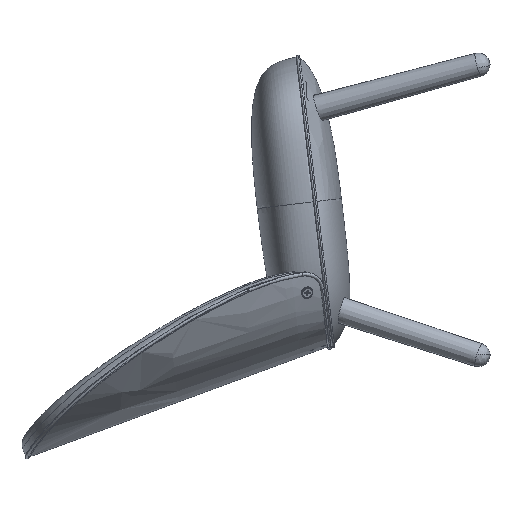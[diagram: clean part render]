
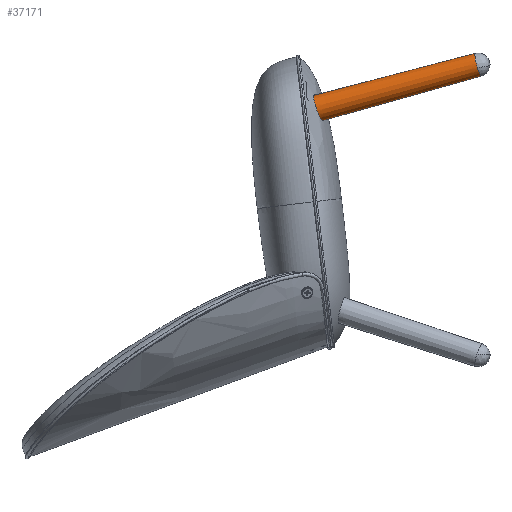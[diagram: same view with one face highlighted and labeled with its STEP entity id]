
A CAD part, left-side view. The second image highlights one B-rep face of the part: STEP entity #37171.
In plain terms, the highlighted conical face has half-angle 0.5 degrees and reference radius 22.737 mm.
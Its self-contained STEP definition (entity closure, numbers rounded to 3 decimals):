
#451 = LINE ( 'NONE', #4389, #43298 ) ;
#461 = B_SPLINE_CURVE_WITH_KNOTS ( 'NONE', 3,
 ( #100127, #150005, #13083, #112205, #25129, #61355, #149466, #1079, #61892, #151087, #49809, #125903, #112745, #137385, #50886, #76045, #37733, #88631, #73909, #161517, #62424, #99058, #24050, #125359, #162048, #50344, #136859, #138476 ),
 .UNSPECIFIED., .F., .F.,
 ( 4, 2, 2, 2, 2, 2, 1, 1, 1, 1, 2, 2, 2, 2, 2, 4 ),
 ( 0., 0.125, 0.25, 0.375, 0.438, 0.469, 0.484, 0.492, 0.496, 0.498, 0.499, 0.5, 0.625, 0.75, 0.875, 1. ),
 .UNSPECIFIED. ) ;
#1079 = CARTESIAN_POINT ( 'NONE',  ( -226.045, 25.003, 268.739 ) ) ;
#2854 = CARTESIAN_POINT ( 'NONE',  ( -221.652, 17.665, 243.967 ) ) ;
#4389 = CARTESIAN_POINT ( 'NONE',  ( -164.941, 293.316, 161.695 ) ) ;
#4748 = EDGE_CURVE ( 'NONE', #144870, #117655, #58156, .T. ) ;
#7280 = DIRECTION ( 'NONE',  ( -0.15, -0.954, 0.259 ) ) ;
#8326 = ORIENTED_EDGE ( 'NONE', *, *, #19582, .T. ) ;
#8513 = CIRCLE ( 'NONE', #135834, 22.737 ) ;
#13083 = CARTESIAN_POINT ( 'NONE',  ( -228.898, 22.677, 258.425 ) ) ;
#13759 = CARTESIAN_POINT ( 'NONE',  ( -216.339, 16.051, 241.037 ) ) ;
#14307 = CARTESIAN_POINT ( 'NONE',  ( -219.605, 16.973, 242.575 ) ) ;
#14860 = CARTESIAN_POINT ( 'NONE',  ( -221.668, 17.671, 243.979 ) ) ;
#17635 = FACE_OUTER_BOUND ( 'NONE', #109658, .T. ) ;
#19582 = EDGE_CURVE ( 'NONE', #55201, #82828, #90393, .T. ) ;
#24050 = CARTESIAN_POINT ( 'NONE',  ( -218.689, 25.833, 276.093 ) ) ;
#25129 = CARTESIAN_POINT ( 'NONE',  ( -228.409, 23.815, 262.946 ) ) ;
#26589 = ORIENTED_EDGE ( 'NONE', *, *, #142357, .T. ) ;
#26924 = CARTESIAN_POINT ( 'NONE',  ( -219.068, 16.808, 242.274 ) ) ;
#34679 = AXIS2_PLACEMENT_3D ( 'NONE', #152173, #65131, #102300 ) ;
#37171 = ADVANCED_FACE ( 'NONE', ( #17635 ), #109643, .T. ) ;
#37733 = CARTESIAN_POINT ( 'NONE',  ( -224.216, 25.41, 271.317 ) ) ;
#38412 = CARTESIAN_POINT ( 'NONE',  ( -210.916, 14.913, 239.945 ) ) ;
#42841 = CARTESIAN_POINT ( 'NONE',  ( -164.941, 305.221, 205.583 ) ) ;
#43298 = VECTOR ( 'NONE', #106671, 1000. ) ;
#49809 = CARTESIAN_POINT ( 'NONE',  ( -224.965, 25.269, 270.358 ) ) ;
#50344 = CARTESIAN_POINT ( 'NONE',  ( -211.821, 25.452, 278.658 ) ) ;
#50886 = CARTESIAN_POINT ( 'NONE',  ( -224.278, 25.4, 271.242 ) ) ;
#51034 = CARTESIAN_POINT ( 'NONE',  ( -214.142, 15.538, 240.402 ) ) ;
#51575 = CARTESIAN_POINT ( 'NONE',  ( -227.307, 20.409, 250.901 ) ) ;
#53421 = VERTEX_POINT ( 'NONE', #129049 ) ;
#55201 = VERTEX_POINT ( 'NONE', #115543 ) ;
#58156 = B_SPLINE_CURVE_WITH_KNOTS ( 'NONE', 3,
 ( #126047, #127154, #38412, #88775, #51034, #13759, #153407, #26924, #14307, #126614, #152327, #115606, #102451, #138621, #151776, #151229, #2854, #14860, #113425, #78375, #77286, #51575, #89879, #100816 ),
 .UNSPECIFIED., .F., .F.,
 ( 4, 2, 2, 2, 2, 2, 1, 1, 1, 1, 2, 2, 2, 4 ),
 ( 0., 0.125, 0.25, 0.375, 0.437, 0.469, 0.484, 0.492, 0.496, 0.498, 0.499, 0.5, 0.75, 1. ),
 .UNSPECIFIED. ) ;
#61355 = CARTESIAN_POINT ( 'NONE',  ( -227.57, 24.423, 265.695 ) ) ;
#61892 = CARTESIAN_POINT ( 'NONE',  ( -225.698, 25.099, 269.3 ) ) ;
#62424 = CARTESIAN_POINT ( 'NONE',  ( -222.223, 25.683, 273.485 ) ) ;
#65131 = DIRECTION ( 'NONE',  ( 0.15, 0.954, -0.259 ) ) ;
#73909 = CARTESIAN_POINT ( 'NONE',  ( -224.199, 25.413, 271.338 ) ) ;
#76045 = CARTESIAN_POINT ( 'NONE',  ( -224.235, 25.407, 271.295 ) ) ;
#77286 = CARTESIAN_POINT ( 'NONE',  ( -224.979, 19.018, 247.074 ) ) ;
#78375 = CARTESIAN_POINT ( 'NONE',  ( -223.462, 18.325, 245.375 ) ) ;
#82828 = VERTEX_POINT ( 'NONE', #42841 ) ;
#83873 = ORIENTED_EDGE ( 'NONE', *, *, #104699, .F. ) ;
#87218 = ORIENTED_EDGE ( 'NONE', *, *, #149111, .T. ) ;
#88631 = CARTESIAN_POINT ( 'NONE',  ( -224.204, 25.413, 271.332 ) ) ;
#88775 = CARTESIAN_POINT ( 'NONE',  ( -213.049, 15.311, 240.19 ) ) ;
#89879 = CARTESIAN_POINT ( 'NONE',  ( -228.117, 21.106, 253.029 ) ) ;
#90393 = LINE ( 'NONE', #148477, #139414 ) ;
#99058 = CARTESIAN_POINT ( 'NONE',  ( -219.934, 25.814, 275.301 ) ) ;
#100127 = CARTESIAN_POINT ( 'NONE',  ( -228.526, 21.764, 255.242 ) ) ;
#100816 = CARTESIAN_POINT ( 'NONE',  ( -228.526, 21.764, 255.242 ) ) ;
#102300 = DIRECTION ( 'NONE',  ( 0., 0.262, 0.965 ) ) ;
#102451 = CARTESIAN_POINT ( 'NONE',  ( -221.239, 17.517, 243.654 ) ) ;
#104699 = EDGE_CURVE ( 'NONE', #144870, #53421, #451, .T. ) ;
#105822 = CARTESIAN_POINT ( 'NONE',  ( -164.941, 299.269, 183.639 ) ) ;
#106671 = DIRECTION ( 'NONE',  ( 0.15, 0.952, -0.267 ) ) ;
#109643 = CONICAL_SURFACE ( 'NONE', #34679, 22.737, 0.009 ) ;
#109658 = EDGE_LOOP ( 'NONE', ( #83873, #149128, #87218, #8326, #26589 ) ) ;
#112205 = CARTESIAN_POINT ( 'NONE',  ( -228.691, 23.465, 261.479 ) ) ;
#112745 = CARTESIAN_POINT ( 'NONE',  ( -224.535, 25.354, 270.923 ) ) ;
#113425 = CARTESIAN_POINT ( 'NONE',  ( -221.676, 17.674, 243.986 ) ) ;
#115543 = CARTESIAN_POINT ( 'NONE',  ( -208.889, 25.069, 278.933 ) ) ;
#115606 = CARTESIAN_POINT ( 'NONE',  ( -221.046, 17.45, 243.516 ) ) ;
#117655 = VERTEX_POINT ( 'NONE', #126204 ) ;
#120036 = DIRECTION ( 'NONE',  ( 0., 0.262, 0.965 ) ) ;
#125359 = CARTESIAN_POINT ( 'NONE',  ( -216.058, 25.775, 277.404 ) ) ;
#125903 = CARTESIAN_POINT ( 'NONE',  ( -224.679, 25.327, 270.737 ) ) ;
#126047 = CARTESIAN_POINT ( 'NONE',  ( -208.874, 14.597, 239.952 ) ) ;
#126204 = CARTESIAN_POINT ( 'NONE',  ( -228.526, 21.764, 255.242 ) ) ;
#126614 = CARTESIAN_POINT ( 'NONE',  ( -220.396, 17.229, 243.071 ) ) ;
#127154 = CARTESIAN_POINT ( 'NONE',  ( -209.875, 14.743, 239.913 ) ) ;
#129049 = CARTESIAN_POINT ( 'NONE',  ( -164.941, 293.316, 161.695 ) ) ;
#135834 = AXIS2_PLACEMENT_3D ( 'NONE', #105822, #7280, #120036 ) ;
#136859 = CARTESIAN_POINT ( 'NONE',  ( -210.357, 25.283, 278.875 ) ) ;
#137385 = CARTESIAN_POINT ( 'NONE',  ( -224.364, 25.385, 271.137 ) ) ;
#138476 = CARTESIAN_POINT ( 'NONE',  ( -208.889, 25.069, 278.933 ) ) ;
#138621 = CARTESIAN_POINT ( 'NONE',  ( -221.462, 17.596, 243.821 ) ) ;
#139414 = VECTOR ( 'NONE', #146125, 1000. ) ;
#142357 = EDGE_CURVE ( 'NONE', #82828, #53421, #8513, .T. ) ;
#144870 = VERTEX_POINT ( 'NONE', #145353 ) ;
#145353 = CARTESIAN_POINT ( 'NONE',  ( -208.874, 14.597, 239.952 ) ) ;
#146125 = DIRECTION ( 'NONE',  ( 0.15, 0.956, -0.25 ) ) ;
#148477 = CARTESIAN_POINT ( 'NONE',  ( -164.941, 305.221, 205.583 ) ) ;
#149111 = EDGE_CURVE ( 'NONE', #117655, #55201, #461, .T. ) ;
#149128 = ORIENTED_EDGE ( 'NONE', *, *, #4748, .T. ) ;
#149466 = CARTESIAN_POINT ( 'NONE',  ( -227.015, 24.681, 266.978 ) ) ;
#150005 = CARTESIAN_POINT ( 'NONE',  ( -228.821, 22.238, 256.839 ) ) ;
#151087 = CARTESIAN_POINT ( 'NONE',  ( -225.152, 25.229, 270.098 ) ) ;
#151229 = CARTESIAN_POINT ( 'NONE',  ( -221.628, 17.656, 243.948 ) ) ;
#151776 = CARTESIAN_POINT ( 'NONE',  ( -221.573, 17.636, 243.906 ) ) ;
#152173 = CARTESIAN_POINT ( 'NONE',  ( -164.941, 299.269, 183.639 ) ) ;
#152327 = CARTESIAN_POINT ( 'NONE',  ( -220.658, 17.316, 243.245 ) ) ;
#153407 = CARTESIAN_POINT ( 'NONE',  ( -217.443, 16.337, 241.461 ) ) ;
#161517 = CARTESIAN_POINT ( 'NONE',  ( -223.269, 25.57, 272.461 ) ) ;
#162048 = CARTESIAN_POINT ( 'NONE',  ( -214.672, 25.699, 277.923 ) ) ;
